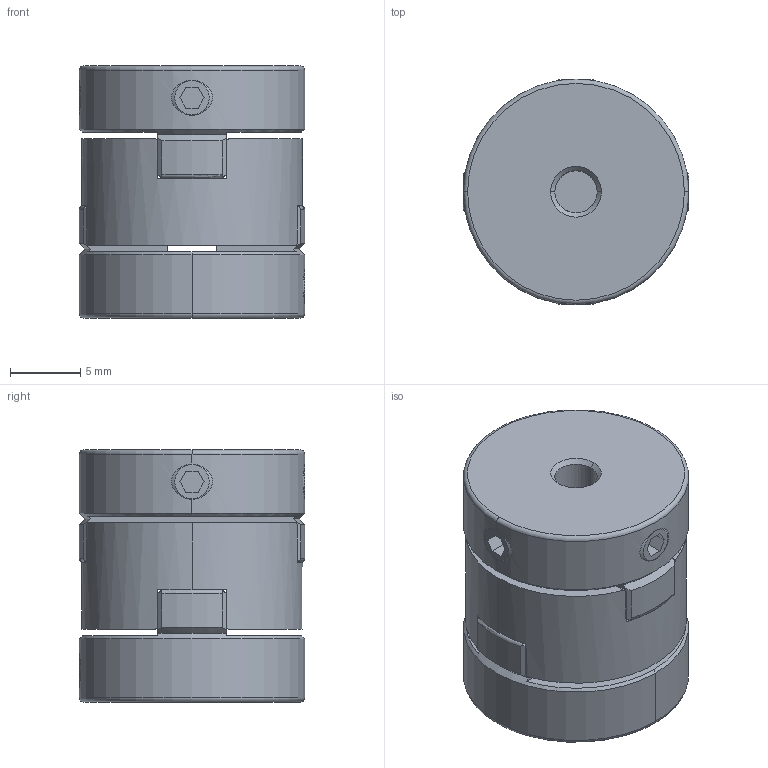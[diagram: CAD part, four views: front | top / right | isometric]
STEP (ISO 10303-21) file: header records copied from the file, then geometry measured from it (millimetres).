
FILE_DESCRIPTION (( 'STEP AP203' ), '1' );
FILE_NAME ('SOH-16-3X6_203.STEP', '2013-01-23T06:39:34', ( '' ), ( '' ), 'SwSTEP 2.0', 'SolidWorks 2012', '' );
FILE_SCHEMA (( 'CONFIG_CONTROL_DESIGN' ));
Length unit declared in the file: millimetre
Products named in the file (1): SOH-16-3X6_203
Bounding box: 16 x 16 x 17.9 mm (x, y, z)
Volume: 2990.4 mm3; surface area: 2287.4 mm2
Topology: 1 solids, 1 shells, 156 faces, 453 edges, 291 vertices
Faces by surface type: plane 73, cylinder 47, cone 20, sphere 8, torus 8
Entity records: 5651 total; most frequent: CARTESIAN_POINT 1512, ORIENTED_EDGE 906, DIRECTION 797, EDGE_CURVE 453, VERTEX_POINT 291, AXIS2_PLACEMENT_3D 282, LINE 233, VECTOR 233
